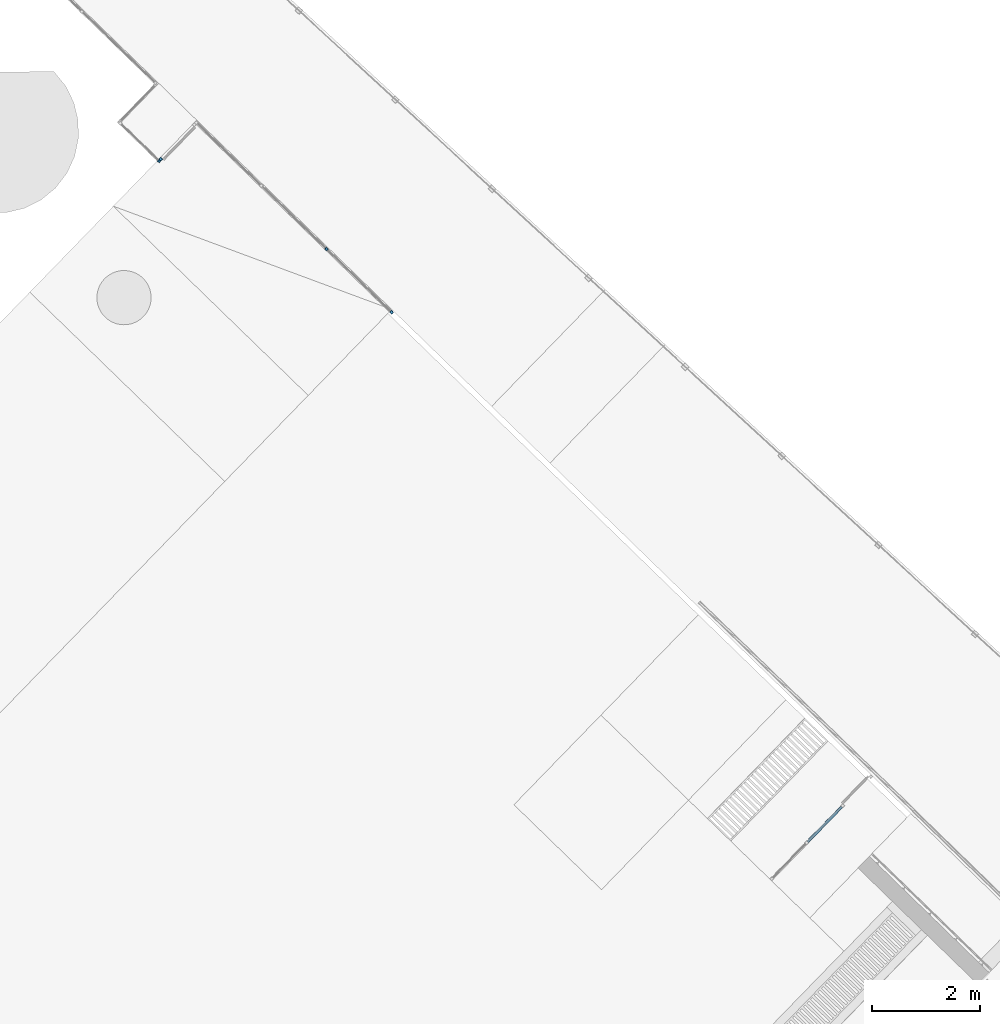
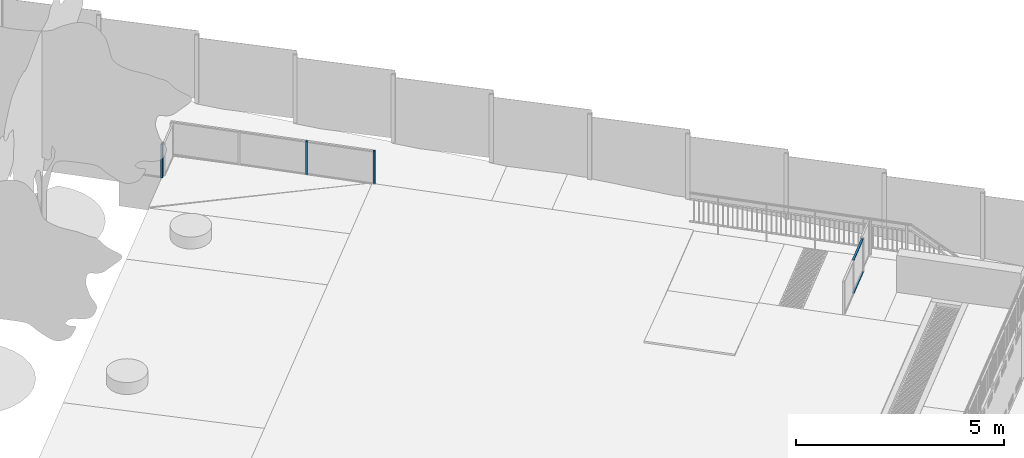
# One storey, part 9 of 37: 6 members, 4 elements without a shape of their own.
"""IFC2X3 building model written with IfcOpenShell, lengths in centimetres."""

from ifc_helpers import new_model, entity, si_unit, converted_unit, derived_unit, direction, frame, frame_2d, origin, origin_2d_with_axis, place, context, subcontext, project, spatial, rectangle, extrude, material, type_object, element, aggregate, save


model = new_model("IFC2X3")

# Units and contexts
model_context = context("Model", 3, precision=0.001, world=origin(), true_north=direction((0.717475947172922, 0.696583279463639)))
body_context = subcontext(model_context, "Body", "Model", "MODEL_VIEW")
ifc_project = project(units=[si_unit("LENGTHUNIT", "METRE", prefix="CENTI"), si_unit("AREAUNIT", "SQUARE_METRE"), si_unit("VOLUMEUNIT", "CUBIC_METRE"), converted_unit("PLANEANGLEUNIT", "DEGREE", entity("IfcRatioMeasure", 0.0174532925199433), si_unit("PLANEANGLEUNIT", "RADIAN"), dimensions=[0, 0, 0, 0, 0, 0, 0]), si_unit("MASSUNIT", "GRAM", prefix="KILO"), derived_unit("MASSDENSITYUNIT", [(si_unit("MASSUNIT", "GRAM", prefix="KILO"), 1), (si_unit("LENGTHUNIT", "METRE"), -3)]), si_unit("TIMEUNIT", "SECOND"), si_unit("FREQUENCYUNIT", "HERTZ"), si_unit("THERMODYNAMICTEMPERATUREUNIT", "DEGREE_CELSIUS"), derived_unit("THERMALTRANSMITTANCEUNIT", [(si_unit("MASSUNIT", "GRAM", prefix="KILO"), 1), (si_unit("THERMODYNAMICTEMPERATUREUNIT", "KELVIN"), -1), (si_unit("TIMEUNIT", "SECOND"), -3)]), derived_unit("VOLUMETRICFLOWRATEUNIT", [(si_unit("LENGTHUNIT", "METRE"), 3), (si_unit("TIMEUNIT", "SECOND"), -1)]), si_unit("ELECTRICCURRENTUNIT", "AMPERE"), si_unit("ELECTRICVOLTAGEUNIT", "VOLT"), si_unit("POWERUNIT", "WATT"), si_unit("FORCEUNIT", "NEWTON", prefix="KILO"), si_unit("ILLUMINANCEUNIT", "LUX"), si_unit("LUMINOUSFLUXUNIT", "LUMEN"), si_unit("LUMINOUSINTENSITYUNIT", "CANDELA"), derived_unit("USERDEFINED", [(si_unit("MASSUNIT", "GRAM", prefix="KILO"), -1), (si_unit("LENGTHUNIT", "METRE"), -2), (si_unit("TIMEUNIT", "SECOND"), 3), (si_unit("LUMINOUSFLUXUNIT", "LUMEN"), 1)]), derived_unit("LINEARVELOCITYUNIT", [(si_unit("LENGTHUNIT", "METRE"), 1), (si_unit("TIMEUNIT", "SECOND"), -1)]), si_unit("PRESSUREUNIT", "PASCAL"), derived_unit("USERDEFINED", [(si_unit("LENGTHUNIT", "METRE"), -2), (si_unit("MASSUNIT", "GRAM", prefix="KILO"), 1), (si_unit("TIMEUNIT", "SECOND"), -2)])], contexts=[model_context])

# Site, building, storey
site_placement = place(None, frame((0.0, 0.0, 0.0), z_axis=(0.0, 0.0, 1.0), x_axis=(0.696583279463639, 0.717475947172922, 0.0)))
site = spatial("IfcSite", under=ifc_project, at=site_placement, Name="Surface", CompositionType="ELEMENT")
building_placement = place(site_placement, origin())
building = spatial("IfcBuilding", under=site, at=building_placement, CompositionType="ELEMENT")
storey_placement = place(building_placement, origin())
storey = spatial("IfcBuildingStorey", under=building, at=storey_placement, Name="Nivel 0.00", CompositionType="ELEMENT", Elevation=0.0)

# Curtain wall, members
curtain_wall_type_1 = type_object("IfcCurtainWallType", Name="Curtain Wall:REJA_BAJA_100mm", PredefinedType="NOTDEFINED")
curtain_wall_1_placement = place(storey_placement, origin())
curtain_wall_1 = element("IfcCurtainWall", 1, at=curtain_wall_1_placement, inside=storey, type_object=curtain_wall_type_1, Name="Curtain Wall:REJA_BAJA_100mm", ObjectType="Curtain Wall:REJA_BAJA_100mm")
ifc_material = material(Name="Aluminum")
member_1_placement = place(curtain_wall_1_placement, origin())
member_1 = element("IfcMember", 2, at=member_1_placement, material=ifc_material, Name="Curtain Wall:REJA_BAJA_100mm", ObjectType="Curtain Wall:REJA_BAJA_100mm", context=body_context, shape_type="SweptSolid", body=[
    extrude(rectangle(XDim=2.99999999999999, YDim=5.00000000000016, at=frame_2d((1.35447209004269e-14, 4.33209024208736e-13), x_axis=(1.0, 0.0))), frame((1720.63510433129, -1156.74407068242, 153.5), z_axis=(-1.0, 0.0, 0.0), x_axis=(0.0, 0.0, -1.0)), (0.0, 0.0, 1.0), 90.417470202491),
])
member_2_placement = place(curtain_wall_1_placement, origin())
member_2 = element("IfcMember", 3, at=member_2_placement, material=ifc_material, Name="Curtain Wall:REJA_BAJA_100mm", ObjectType="Curtain Wall:REJA_BAJA_100mm", context=body_context, shape_type="SweptSolid", body=[
    extrude(rectangle(XDim=3.00000000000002, YDim=5.00000000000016, at=frame_2d((2.70894418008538e-14, 4.33209024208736e-13), x_axis=(1.0, 0.0))), frame((1630.2176341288, -1156.74407068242, 250.5), z_axis=(1.0, 0.0, 0.0), x_axis=(0.0, 0.0, -1.0)), (0.0, 0.0, 1.0), 90.417470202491),
])
aggregate(curtain_wall_1, [member_1, member_2])

# Curtain wall, member
curtain_wall_type_2 = type_object("IfcCurtainWallType", Name="Curtain Wall:REJA_BAJA_SIMPLE_100mm", PredefinedType="NOTDEFINED")
curtain_wall_2_placement = place(storey_placement, origin())
curtain_wall_2 = element("IfcCurtainWall", 4, at=curtain_wall_2_placement, inside=storey, type_object=curtain_wall_type_2, Name="Curtain Wall:REJA_BAJA_SIMPLE_100mm", ObjectType="Curtain Wall:REJA_BAJA_SIMPLE_100mm")
member_3_placement = place(curtain_wall_2_placement, origin())
member_3 = element("IfcMember", 5, at=member_3_placement, material=ifc_material, Name="Curtain Wall:REJA_BAJA_SIMPLE_100mm", ObjectType="Curtain Wall:REJA_BAJA_SIMPLE_100mm", context=body_context, shape_type="SweptSolid", body=[
    extrude(rectangle(XDim=5.00000000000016, YDim=4.99999999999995, at=origin_2d_with_axis()), frame((1698.05257485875, 576.1492328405, 150.0), z_axis=(0.0, 0.0, 1.0), x_axis=(-1.0, 0.0, 0.0)), (0.0, 0.0, 1.0), 98.0),
])
aggregate(curtain_wall_2, [member_3])

curtain_wall_3_placement = place(storey_placement, origin())
curtain_wall_3 = element("IfcCurtainWall", 6, at=curtain_wall_3_placement, inside=storey, type_object=curtain_wall_type_2, Name="Curtain Wall:REJA_BAJA_SIMPLE_100mm", ObjectType="Curtain Wall:REJA_BAJA_SIMPLE_100mm")
member_4_placement = place(curtain_wall_3_placement, origin())
member_4 = element("IfcMember", 7, at=member_4_placement, material=ifc_material, Name="Curtain Wall:REJA_BAJA_SIMPLE_100mm", ObjectType="Curtain Wall:REJA_BAJA_SIMPLE_100mm", context=body_context, shape_type="SweptSolid", body=[
    extrude(rectangle(XDim=4.99999999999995, YDim=4.99999999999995, at=frame_2d((-1.08357767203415e-13, 0.0), x_axis=(1.0, 0.0))), frame((1703.05257485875, 576.14923286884, 248.0), z_axis=(0.0, 0.0, -1.0), x_axis=(-1.0, 0.0, 0.0)), (0.0, 0.0, 1.0), 98.0),
])
aggregate(curtain_wall_3, [member_4])

# Curtain wall, members
curtain_wall_4_placement = place(storey_placement, origin())
curtain_wall_4 = element("IfcCurtainWall", 8, at=curtain_wall_4_placement, inside=storey, type_object=curtain_wall_type_1, Name="Curtain Wall:REJA_BAJA_100mm", ObjectType="Curtain Wall:REJA_BAJA_100mm")
member_5_placement = place(curtain_wall_4_placement, origin())
member_5 = element("IfcMember", 9, at=member_5_placement, material=ifc_material, Name="Curtain Wall:REJA_BAJA_100mm", ObjectType="Curtain Wall:REJA_BAJA_100mm", context=body_context, shape_type="SweptSolid", body=[
    extrude(rectangle(XDim=5.00000000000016, YDim=5.0, at=origin_2d_with_axis()), frame((1796.6277064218, 74.1492328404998, 150.0), z_axis=(0.0, 0.0, 1.0), x_axis=(-1.0, 0.0, 0.0)), (0.0, 0.0, 1.0), 98.0),
])
member_6_placement = place(curtain_wall_4_placement, origin())
member_6 = element("IfcMember", 10, at=member_6_placement, material=ifc_material, Name="Curtain Wall:REJA_BAJA_100mm", ObjectType="Curtain Wall:REJA_BAJA_100mm", context=body_context, shape_type="SweptSolid", body=[
    extrude(rectangle(XDim=5.00000000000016, YDim=4.99999999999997, at=frame_2d((-2.16715534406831e-13, 1.35447209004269e-14), x_axis=(1.0, 0.0))), frame((1796.6277064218, 241.48256619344, 150.0), z_axis=(0.0, 0.0, 1.0), x_axis=(-1.0, 0.0, 0.0)), (0.0, 0.0, 1.0), 98.0),
])
aggregate(curtain_wall_4, [member_5, member_6])

save(model, "model.ifc")
